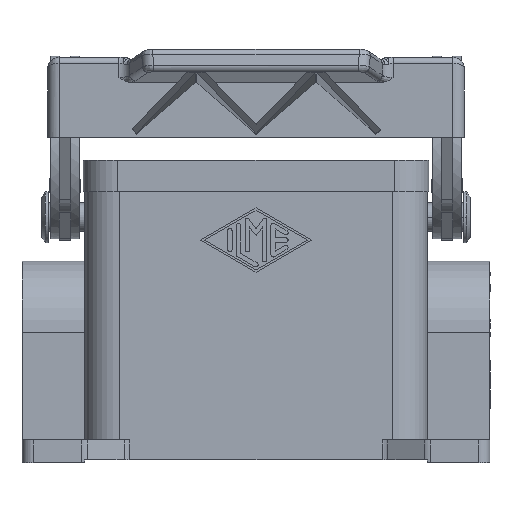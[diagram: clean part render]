
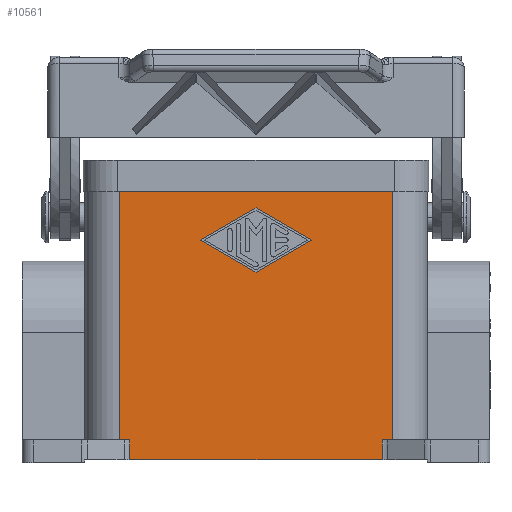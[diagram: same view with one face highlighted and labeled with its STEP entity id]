
A CAD part, front view. The second image highlights one B-rep face of the part: STEP entity #10561.
In plain terms, the highlighted planar face has unit normal (0, -1, 0).
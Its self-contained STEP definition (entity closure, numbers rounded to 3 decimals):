
#2 = FACE_BOUND ( 'NONE', #12368, .T. ) ;
#398 = ORIENTED_EDGE ( 'NONE', *, *, #14791, .T. ) ;
#399 = ORIENTED_EDGE ( 'NONE', *, *, #14806, .T. ) ;
#400 = ORIENTED_EDGE ( 'NONE', *, *, #14803, .T. ) ;
#401 = ORIENTED_EDGE ( 'NONE', *, *, #14801, .T. ) ;
#402 = ORIENTED_EDGE ( 'NONE', *, *, #14827, .T. ) ;
#404 = ORIENTED_EDGE ( 'NONE', *, *, #14833, .T. ) ;
#405 = ORIENTED_EDGE ( 'NONE', *, *, #14822, .T. ) ;
#406 = ORIENTED_EDGE ( 'NONE', *, *, #14812, .T. ) ;
#407 = ORIENTED_EDGE ( 'NONE', *, *, #14818, .T. ) ;
#408 = ORIENTED_EDGE ( 'NONE', *, *, #14815, .T. ) ;
#409 = ORIENTED_EDGE ( 'NONE', *, *, #14817, .T. ) ;
#410 = ORIENTED_EDGE ( 'NONE', *, *, #14811, .T. ) ;
#1161 = FACE_OUTER_BOUND ( 'NONE', #12152, .T. ) ;
#2014 = CARTESIAN_POINT ( 'NONE',  ( 0., -21.75, 20.625 ) ) ;
#2017 = CARTESIAN_POINT ( 'NONE',  ( -22.103, -21.75, -20. ) ) ;
#2029 = CARTESIAN_POINT ( 'NONE',  ( 24., -21.75, 23.5 ) ) ;
#2043 = CARTESIAN_POINT ( 'NONE',  ( 24., -21.75, -20. ) ) ;
#2084 = CARTESIAN_POINT ( 'NONE',  ( 22.103, -21.75, -23.5 ) ) ;
#2105 = CARTESIAN_POINT ( 'NONE',  ( -9.75, -21.75, 15. ) ) ;
#2109 = CARTESIAN_POINT ( 'NONE',  ( 9.75, -21.75, 15. ) ) ;
#2113 = CARTESIAN_POINT ( 'NONE',  ( 22.103, -21.75, -20. ) ) ;
#2125 = CARTESIAN_POINT ( 'NONE',  ( -24., -21.75, -20. ) ) ;
#2132 = CARTESIAN_POINT ( 'NONE',  ( -22.103, -21.75, -23.5 ) ) ;
#2135 = CARTESIAN_POINT ( 'NONE',  ( -24., -21.75, 23.5 ) ) ;
#2154 = CARTESIAN_POINT ( 'NONE',  ( 0., -21.75, 9.375 ) ) ;
#2795 = VERTEX_POINT ( 'NONE', #2154 ) ;
#2809 = VERTEX_POINT ( 'NONE', #2135 ) ;
#2811 = VERTEX_POINT ( 'NONE', #2132 ) ;
#2816 = VERTEX_POINT ( 'NONE', #2125 ) ;
#2824 = VERTEX_POINT ( 'NONE', #2113 ) ;
#2827 = VERTEX_POINT ( 'NONE', #2109 ) ;
#2830 = VERTEX_POINT ( 'NONE', #2105 ) ;
#2844 = VERTEX_POINT ( 'NONE', #2084 ) ;
#2872 = VERTEX_POINT ( 'NONE', #2043 ) ;
#2880 = VERTEX_POINT ( 'NONE', #2029 ) ;
#2889 = VERTEX_POINT ( 'NONE', #2017 ) ;
#2891 = VERTEX_POINT ( 'NONE', #2014 ) ;
#9862 = DIRECTION ( 'NONE',  ( 1., 0., 0. ) ) ;
#9863 = CARTESIAN_POINT ( 'NONE',  ( 24., -21.75, -20. ) ) ;
#9945 = CARTESIAN_POINT ( 'NONE',  ( 24., -21.75, 1.5 ) ) ;
#9947 = DIRECTION ( 'NONE',  ( 0., 0., 1. ) ) ;
#10097 = CARTESIAN_POINT ( 'NONE',  ( 24., -21.75, 23.5 ) ) ;
#10098 = DIRECTION ( 'NONE',  ( -1., 0., 0. ) ) ;
#10561 = ADVANCED_FACE ( 'NONE', ( #2, #1161 ), #17916, .T. ) ;
#11367 = DIRECTION ( 'NONE',  ( 0., 0., 1. ) ) ;
#11368 = CARTESIAN_POINT ( 'NONE',  ( 22.103, -21.75, 1.5 ) ) ;
#11385 = DIRECTION ( 'NONE',  ( 1., 0., 0. ) ) ;
#11386 = CARTESIAN_POINT ( 'NONE',  ( 24., -21.75, -20. ) ) ;
#11820 = CARTESIAN_POINT ( 'NONE',  ( 0., -21.75, -23.5 ) ) ;
#11825 = DIRECTION ( 'NONE',  ( 1., 0., 0. ) ) ;
#11826 = DIRECTION ( 'NONE',  ( 0.866, 0., 0.5 ) ) ;
#11827 = CARTESIAN_POINT ( 'NONE',  ( -9.75, -21.75, 15. ) ) ;
#11828 = DIRECTION ( 'NONE',  ( -0.866, 0., -0.5 ) ) ;
#11829 = CARTESIAN_POINT ( 'NONE',  ( 9.75, -21.75, 15. ) ) ;
#11832 = DIRECTION ( 'NONE',  ( -0.866, 0., 0.5 ) ) ;
#11833 = CARTESIAN_POINT ( 'NONE',  ( 0., -21.75, 9.375 ) ) ;
#11839 = DIRECTION ( 'NONE',  ( 0., 0., -1. ) ) ;
#11841 = DIRECTION ( 'NONE',  ( 0.866, 0., -0.5 ) ) ;
#11843 = CARTESIAN_POINT ( 'NONE',  ( -22.103, -21.75, 1.5 ) ) ;
#11856 = CARTESIAN_POINT ( 'NONE',  ( 0., -21.75, 20.625 ) ) ;
#11857 = DIRECTION ( 'NONE',  ( 0., 0., -1. ) ) ;
#11858 = CARTESIAN_POINT ( 'NONE',  ( -24., -21.75, 1.5 ) ) ;
#12152 = EDGE_LOOP ( 'NONE', ( #406, #405, #404, #402, #401, #400, #399, #398 ) ) ;
#12368 = EDGE_LOOP ( 'NONE', ( #410, #409, #408, #407 ) ) ;
#14791 = EDGE_CURVE ( 'NONE', #2816, #2889, #15556, .T. ) ;
#14801 = EDGE_CURVE ( 'NONE', #2872, #2880, #15561, .T. ) ;
#14803 = EDGE_CURVE ( 'NONE', #2880, #2809, #15578, .T. ) ;
#14806 = EDGE_CURVE ( 'NONE', #2809, #2816, #15587, .T. ) ;
#14811 = EDGE_CURVE ( 'NONE', #2891, #2827, #15592, .T. ) ;
#14812 = EDGE_CURVE ( 'NONE', #2889, #2811, #15589, .T. ) ;
#14815 = EDGE_CURVE ( 'NONE', #2795, #2830, #15603, .T. ) ;
#14817 = EDGE_CURVE ( 'NONE', #2827, #2795, #15607, .T. ) ;
#14818 = EDGE_CURVE ( 'NONE', #2830, #2891, #15609, .T. ) ;
#14822 = EDGE_CURVE ( 'NONE', #2811, #2844, #15600, .T. ) ;
#14827 = EDGE_CURVE ( 'NONE', #2824, #2872, #15625, .T. ) ;
#14833 = EDGE_CURVE ( 'NONE', #2844, #2824, #15629, .T. ) ;
#15556 = LINE ( 'NONE', #9863, #15562 ) ;
#15561 = LINE ( 'NONE', #9945, #15571 ) ;
#15562 = VECTOR ( 'NONE', #9862, 1000. ) ;
#15571 = VECTOR ( 'NONE', #9947, 1000. ) ;
#15578 = LINE ( 'NONE', #10097, #15580 ) ;
#15580 = VECTOR ( 'NONE', #10098, 1000. ) ;
#15587 = LINE ( 'NONE', #11858, #15588 ) ;
#15588 = VECTOR ( 'NONE', #11857, 1000. ) ;
#15589 = LINE ( 'NONE', #11843, #15598 ) ;
#15592 = LINE ( 'NONE', #11856, #15596 ) ;
#15596 = VECTOR ( 'NONE', #11841, 1000. ) ;
#15598 = VECTOR ( 'NONE', #11839, 1000. ) ;
#15600 = LINE ( 'NONE', #11820, #15617 ) ;
#15603 = LINE ( 'NONE', #11833, #15604 ) ;
#15604 = VECTOR ( 'NONE', #11832, 1000. ) ;
#15607 = LINE ( 'NONE', #11829, #15608 ) ;
#15608 = VECTOR ( 'NONE', #11828, 1000. ) ;
#15609 = LINE ( 'NONE', #11827, #15610 ) ;
#15610 = VECTOR ( 'NONE', #11826, 1000. ) ;
#15617 = VECTOR ( 'NONE', #11825, 1000. ) ;
#15622 = VECTOR ( 'NONE', #11367, 1000. ) ;
#15625 = LINE ( 'NONE', #11386, #15626 ) ;
#15626 = VECTOR ( 'NONE', #11385, 1000. ) ;
#15629 = LINE ( 'NONE', #11368, #15622 ) ;
#17043 = AXIS2_PLACEMENT_3D ( 'NONE', #17915, #17909, #17907 ) ;
#17907 = DIRECTION ( 'NONE',  ( 0., 0., -1. ) ) ;
#17909 = DIRECTION ( 'NONE',  ( 0., -1., 0. ) ) ;
#17915 = CARTESIAN_POINT ( 'NONE',  ( 24., -21.75, 1.5 ) ) ;
#17916 = PLANE ( 'NONE',  #17043 ) ;
